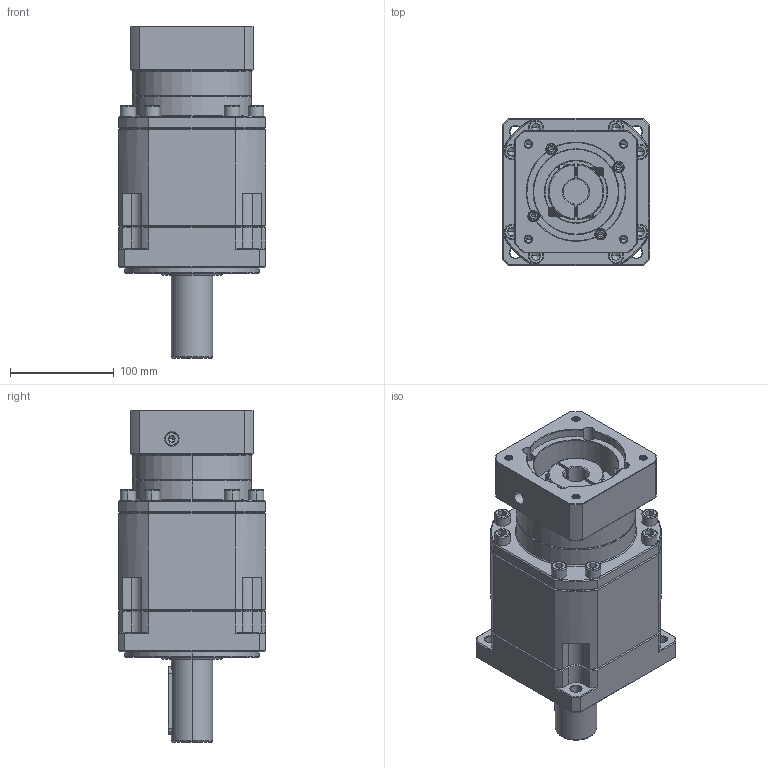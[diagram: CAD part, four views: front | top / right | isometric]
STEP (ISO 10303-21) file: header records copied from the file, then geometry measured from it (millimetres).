
FILE_DESCRIPTION (( 'STEP AP214' ), '1' );
FILE_NAME ('ZB142A-D40-L3-24-95-130-M8.step', '2023-03-18T07:06:45', ( '' ), ( '' ), 'SwSTEP 2.0', 'SolidWorks 2016', '' );
FILE_SCHEMA (( 'AUTOMOTIVE_DESIGN' ));
Length unit declared in the file: millimetre
Products named in the file (1): ZB142A-D40-L3-24-95-130-M8
Bounding box: 142 x 142 x 320.7 mm (x, y, z)
Volume: 3708494 mm3; surface area: 258993.3 mm2
Topology: 6 solids, 6 shells, 2271 faces, 5853 edges, 3699 vertices
Faces by surface type: plane 1025, cylinder 493, cone 388, bspline 307, torus 58
Entity records: 120026 total; most frequent: CARTESIAN_POINT 42389, ORIENTED_EDGE 11598, DIRECTION 9856, EDGE_CURVE 5799, VERTEX_POINT 3699, LINE 3590, VECTOR 3590, AXIS2_PLACEMENT_3D 3133
